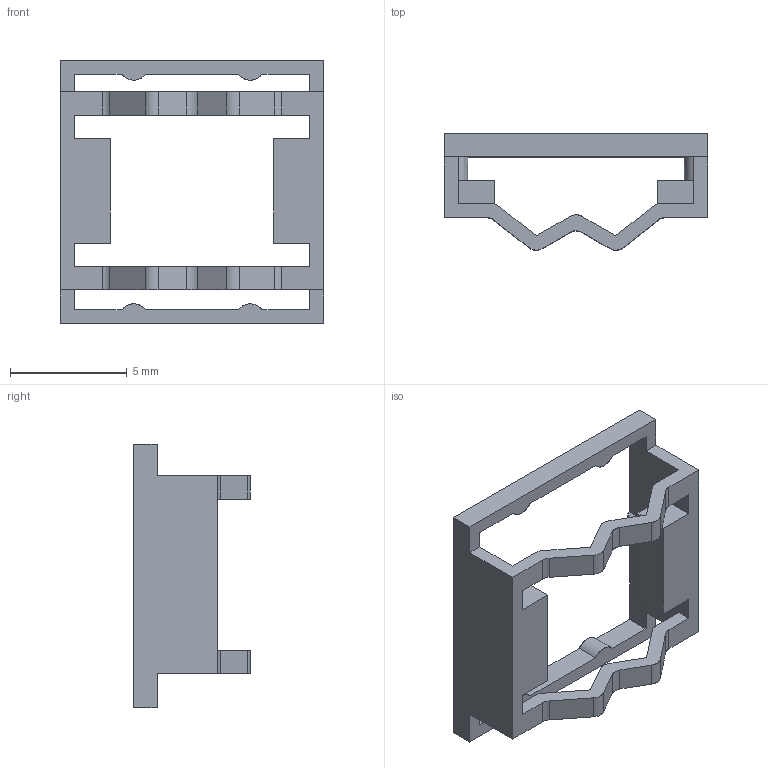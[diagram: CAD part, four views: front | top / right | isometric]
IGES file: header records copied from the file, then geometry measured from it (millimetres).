
Start section: SolidWorks IGES file using analytic representation for surfaces
Global section: file name: C:\Users\admin\Desktop\IGES\J3NPH.igs; native system: SolidWorks 2014; preprocessor: SolidWorks 2014; author: admin_pc; date: 170524.165540; units: millimetre
Bounding box: 11.3 x 5 x 11.3 mm (x, y, z)
Surface area: 343.5 mm2 (no closed solid volume)
Topology: 0 solids, 0 shells, 76 faces, 633 edges, 633 vertices
Faces by surface type: bspline 53, revolution 23
